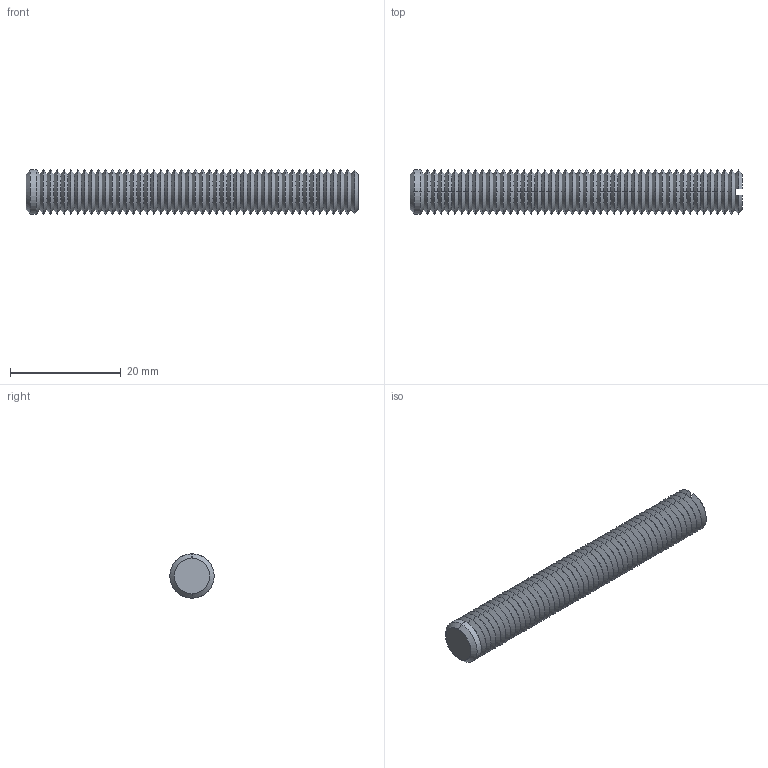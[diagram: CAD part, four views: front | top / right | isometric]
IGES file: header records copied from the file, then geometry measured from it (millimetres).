
Start section: SolidWorks IGES file using analytic representation for surfaces
Global section: file name: C:\Documents and Settings\IANO\Desktop\Temp File\Process pending\EXISTING\34300_v2\34300_v2_20170622_IGES\34300.W0087.igs; native system: SolidWorks 2009; preprocessor: SolidWorks 2009; author: IANO; date: 170622.093853; units: millimetre
Bounding box: 60 x 8 x 8 mm (x, y, z)
Surface area: 2239.4 mm2 (no closed solid volume)
Topology: 0 solids, 0 shells, 196 faces, 848 edges, 848 vertices
Faces by surface type: revolution 190, bspline 6
